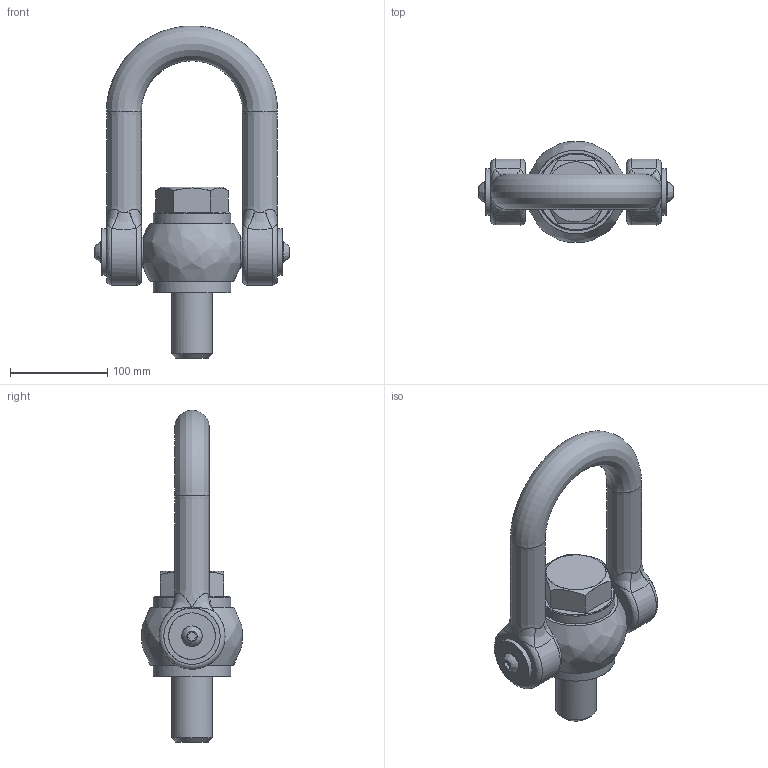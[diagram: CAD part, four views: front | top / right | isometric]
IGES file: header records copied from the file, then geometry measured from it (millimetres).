
Global section: file name: E:\UnigraphicsGraphicData\MISUMI_MOLD-PARTS\NX\3d_sleb42_00883_r00.igs; native system: NX V5.0; preprocessor: UGS NX IGES V5.0; author: MISUMI; date: 20101115.183353; units: millimetre
Bounding box: 200 x 103.3 x 341.95 mm (x, y, z)
Surface area: 156628.1 mm2 (no closed solid volume)
Topology: 0 solids, 0 shells, 76 faces, 1020 edges, 990 vertices
Faces by surface type: bspline 76
